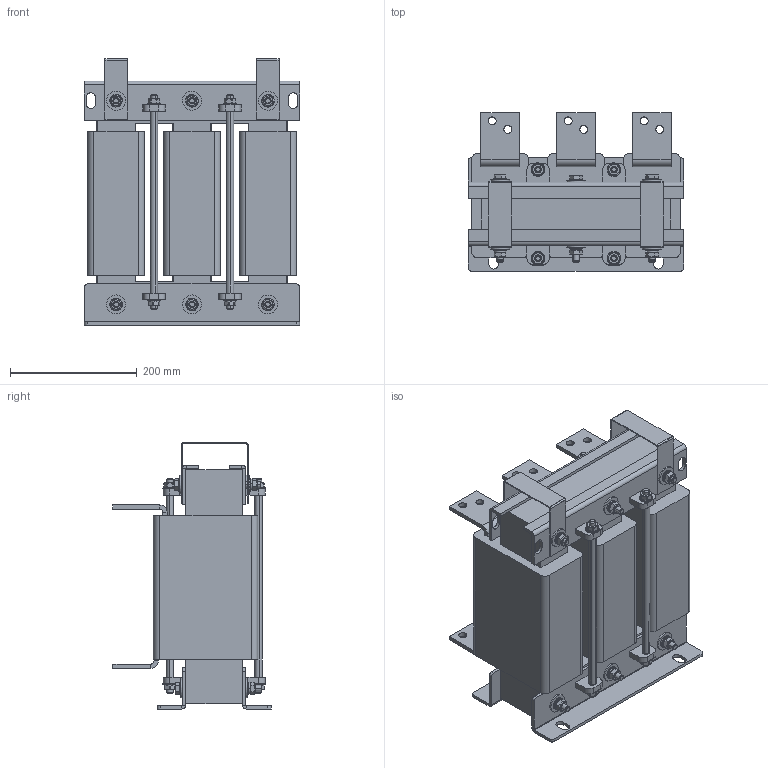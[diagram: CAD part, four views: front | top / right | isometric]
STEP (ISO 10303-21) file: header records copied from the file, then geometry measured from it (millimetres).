
FILE_DESCRIPTION (( 'STEP AP203' ), '1' );
FILE_NAME ('Ñåòåâîé äðîññåëü _ ISF-400_753-4.STEP', '2026-02-16T08:34:34', ( '' ), ( '' ), 'SwSTEP 2.0', 'SolidWorks 2021', '' );
FILE_SCHEMA (( 'CONFIG_CONTROL_DESIGN' ));
Length unit declared in the file: millimetre
Products named in the file (17): Êëåììà âåðõíÿÿ_355-630; 赶鎀鍧 瀔鳽鳻膼嶱355-630; Øàéáà ïëîñêàÿ DIN 125 (A)_Œ10; Áîëò DIN 933_Œ10å130; 忺覷齆趌400; Ãàéêà DIN 934_Œ10; Êëåììà íèæíÿÿ_355-630; Ãàéêà ñ ôëàíöåì DIN 6923_Œ10; 栫謱毿膻獥400; Êàòóøêà ñ êëåììàìè_400; Ñåòåâîé äðîññåëü _ ISF-400_753-4; Øàéáà ïëîñêàÿ DIN 9021_Œ10; 咈櫡_355-630; Ñêîáà òàêåëàæíàÿ_400; Èçîëÿòîð øïèëüêè_400; Øàéáà ïðóæèííàÿ DIN 127 (A)_Œ10; Øïèëüêà DIN 976_Œ10å340
Assembly tree (71 placements, depth 3):
  Ñåòåâîé äðîññåëü _ ISF-400_753-4
    栫謱毿膻獥400
    咈櫡_355-630  x2
    Êàòóøêà ñ êëåììàìè_400  x3
      忺覷齆趌400
      Êëåììà íèæíÿÿ_355-630
      Êëåììà âåðõíÿÿ_355-630
    赶鎀鍧 瀔鳽鳻膼嶱355-630  x2
    Ñêîáà òàêåëàæíàÿ_400  x2
    Áîëò DIN 933_Œ10å130  x6
    Øàéáà ïëîñêàÿ DIN 125 (A)_Œ10  x12
    Øàéáà ïëîñêàÿ DIN 9021_Œ10  x12
    Øàéáà ïðóæèííàÿ DIN 127 (A)_Œ10  x6
    Ãàéêà DIN 934_Œ10  x6
    Øïèëüêà DIN 976_Œ10å340  x4
    Ãàéêà ñ ôëàíöåì DIN 6923_Œ10  x8
    Èçîëÿòîð øïèëüêè_400  x4
Bounding box: 340 x 250 x 420.5 mm (x, y, z)
Volume: 14811965.5 mm3; surface area: 1613371.6 mm2
Topology: 74 solids, 74 shells, 1350 faces, 3172 edges, 1996 vertices
Faces by surface type: plane 546, cylinder 408, cone 272, torus 76, bspline 48
Entity records: 13789 total; most frequent: CARTESIAN_POINT 2295, DIRECTION 1808, ORIENTED_EDGE 1608, EDGE_CURVE 804, AXIS2_PLACEMENT_3D 681, VERTEX_POINT 508, LINE 446, VECTOR 446
